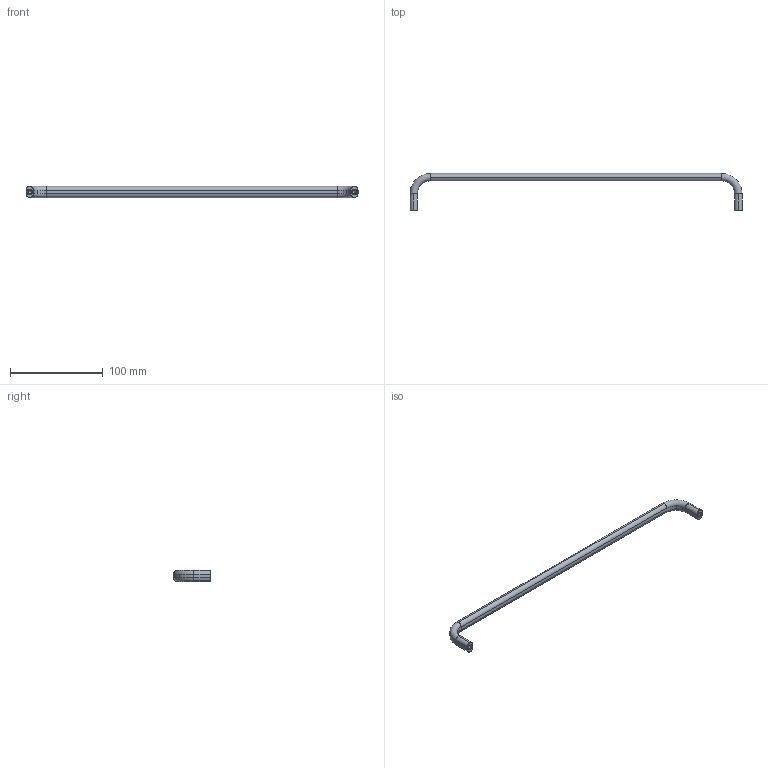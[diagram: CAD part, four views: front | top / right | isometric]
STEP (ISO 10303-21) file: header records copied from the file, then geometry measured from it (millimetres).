
FILE_DESCRIPTION((''),'2;1');
FILE_NAME('c:\wix\Knobs\7892\7892.W035.stp','2003-04-04T16:42:01',('joanc'),(''),'Autodesk Inventor (tm) 5.3','Autodesk Inventor (tm) 5.3','');
FILE_SCHEMA(('CONFIG_CONTROL_DESIGN'));
Length unit declared in the file: millimetre
Products named in the file (1): 7892.W035
Bounding box: 358 x 40 x 12 mm (x, y, z)
Volume: 33031.8 mm3; surface area: 13987.8 mm2
Topology: 1 solids, 1 shells, 72 faces, 166 edges, 94 vertices
Faces by surface type: cylinder 36, torus 16, cone 12, plane 8
Entity records: 2105 total; most frequent: DIRECTION 408, CARTESIAN_POINT 329, ORIENTED_EDGE 324, AXIS2_PLACEMENT_3D 173, EDGE_CURVE 162, CIRCLE 100, VERTEX_POINT 94, EDGE_LOOP 74
